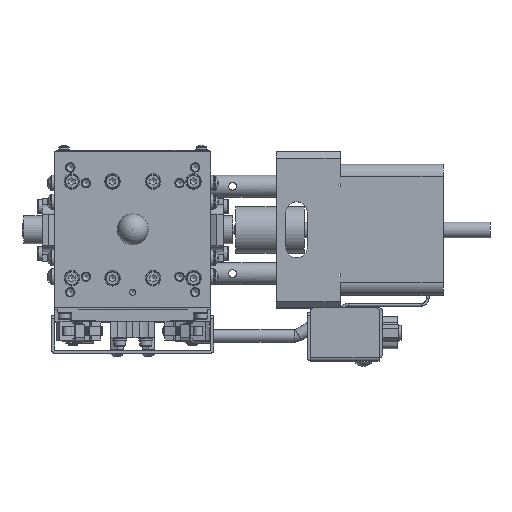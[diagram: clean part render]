
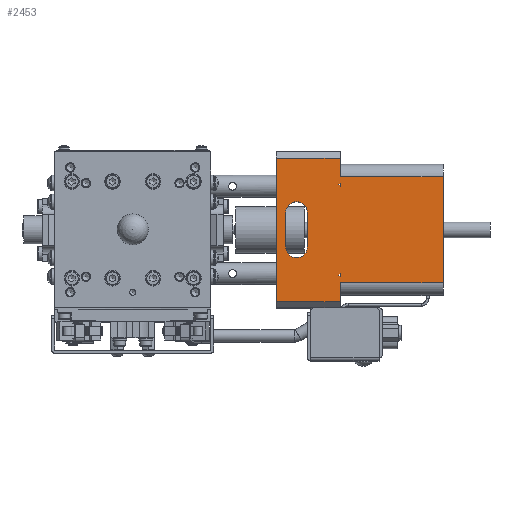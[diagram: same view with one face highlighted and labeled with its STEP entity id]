
A CAD part, top view. The second image highlights one B-rep face of the part: STEP entity #2453.
In plain terms, the highlighted planar face has unit normal (0, 0, 1).
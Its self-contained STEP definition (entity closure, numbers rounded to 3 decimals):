
#2453=ADVANCED_FACE('',(#26221,#26222,#26223,#26224),#26220,.T.);
#26220=PLANE('',#46400);
#26221=FACE_OUTER_BOUND('',#46401,.T.);
#26222=FACE_BOUND('',#46402,.T.);
#26223=FACE_BOUND('',#46403,.T.);
#26224=FACE_BOUND('',#46404,.T.);
#46397=CARTESIAN_POINT('',(104.85,27.6,29.));
#46398=DIRECTION('',(0.,0.,1.));
#46399=DIRECTION('',(-1.,0.,0.));
#46400=AXIS2_PLACEMENT_3D('',#46397,#46398,#46399);
#46401=EDGE_LOOP('',(#61643,#61644,#61645,#61646,#61647,#61648,#61649,#61650));
#46402=EDGE_LOOP('',(#61651,#61652,#61653));
#46403=EDGE_LOOP('',(#61654,#61655,#61656));
#46404=EDGE_LOOP('',(#61657,#61658,#61659,#61660));
#61643=ORIENTED_EDGE('',*,*,#70072,.F.);
#61644=ORIENTED_EDGE('',*,*,#70150,.T.);
#61645=ORIENTED_EDGE('',*,*,#70151,.T.);
#61646=ORIENTED_EDGE('',*,*,#70152,.T.);
#61647=ORIENTED_EDGE('',*,*,#70056,.F.);
#61648=ORIENTED_EDGE('',*,*,#70153,.T.);
#61649=ORIENTED_EDGE('',*,*,#70114,.F.);
#61650=ORIENTED_EDGE('',*,*,#70154,.T.);
#61651=ORIENTED_EDGE('',*,*,#70155,.F.);
#61652=ORIENTED_EDGE('',*,*,#70156,.T.);
#61653=ORIENTED_EDGE('',*,*,#70157,.F.);
#61654=ORIENTED_EDGE('',*,*,#70158,.F.);
#61655=ORIENTED_EDGE('',*,*,#70159,.T.);
#61656=ORIENTED_EDGE('',*,*,#70160,.F.);
#61657=ORIENTED_EDGE('',*,*,#70161,.T.);
#61658=ORIENTED_EDGE('',*,*,#70162,.T.);
#61659=ORIENTED_EDGE('',*,*,#70163,.F.);
#61660=ORIENTED_EDGE('',*,*,#70164,.T.);
#70056=EDGE_CURVE('',#111745,#111746,#111747,.T.);
#70072=EDGE_CURVE('',#111851,#111858,#111859,.T.);
#70114=EDGE_CURVE('',#112133,#112140,#112141,.T.);
#70150=EDGE_CURVE('',#111851,#112379,#112380,.T.);
#70151=EDGE_CURVE('',#112379,#112386,#112387,.T.);
#70152=EDGE_CURVE('',#112386,#111746,#112393,.T.);
#70153=EDGE_CURVE('',#111745,#112140,#112399,.T.);
#70154=EDGE_CURVE('',#112133,#111858,#112405,.T.);
#70155=EDGE_CURVE('',#112411,#112412,#112413,.T.);
#70156=EDGE_CURVE('',#112411,#112419,#112420,.T.);
#70157=EDGE_CURVE('',#112412,#112419,#112426,.T.);
#70158=EDGE_CURVE('',#112432,#112433,#112434,.T.);
#70159=EDGE_CURVE('',#112432,#112440,#112441,.T.);
#70160=EDGE_CURVE('',#112433,#112440,#112447,.T.);
#70161=EDGE_CURVE('',#112453,#112454,#112455,.T.);
#70162=EDGE_CURVE('',#112454,#112461,#112462,.T.);
#70163=EDGE_CURVE('',#112468,#112461,#112469,.T.);
#70164=EDGE_CURVE('',#112468,#112453,#112475,.T.);
#111745=VERTEX_POINT('',#144359);
#111746=VERTEX_POINT('',#144360);
#111747=LINE('',#144361,#144362);
#111851=VERTEX_POINT('',#144422);
#111858=VERTEX_POINT('',#144427);
#111859=LINE('',#144428,#144429);
#112133=VERTEX_POINT('',#144586);
#112140=VERTEX_POINT('',#144590);
#112141=LINE('',#144591,#144592);
#112379=VERTEX_POINT('',#144730);
#112380=LINE('',#144731,#144732);
#112386=VERTEX_POINT('',#144734);
#112387=LINE('',#144735,#144736);
#112393=LINE('',#144738,#144739);
#112399=LINE('',#144741,#144742);
#112405=LINE('',#144744,#144745);
#112411=VERTEX_POINT('',#144747);
#112412=VERTEX_POINT('',#144748);
#112413=LINE('',#144749,#144750);
#112419=VERTEX_POINT('',#144752);
#112420=LINE('',#144753,#144754);
#112426=LINE('',#144756,#144757);
#112432=VERTEX_POINT('',#144759);
#112433=VERTEX_POINT('',#144760);
#112434=LINE('',#144761,#144762);
#112440=VERTEX_POINT('',#144764);
#112441=LINE('',#144765,#144766);
#112447=LINE('',#144768,#144769);
#112453=VERTEX_POINT('',#144771);
#112454=VERTEX_POINT('',#144772);
#112455=LINE('',#144773,#144774);
#112461=VERTEX_POINT('',#144776);
#112462=CIRCLE('',#144780,3.5);
#112468=VERTEX_POINT('',#144781);
#112469=LINE('',#144782,#144783);
#112475=CIRCLE('',#144788,3.5);
#144359=CARTESIAN_POINT('',(66.5,23.,29.));
#144360=CARTESIAN_POINT('',(66.5,17.,29.));
#144361=CARTESIAN_POINT('',(66.5,23.,29.));
#144362=VECTOR('',#144363,6.);
#144363=DIRECTION('',(0.,-1.,0.));
#144422=CARTESIAN_POINT('',(66.5,-17.,29.));
#144427=CARTESIAN_POINT('',(66.5,-23.,29.));
#144428=CARTESIAN_POINT('',(66.5,-17.,29.));
#144429=VECTOR('',#144430,6.);
#144430=DIRECTION('',(0.,-1.,0.));
#144586=CARTESIAN_POINT('',(46.,-23.,29.));
#144590=CARTESIAN_POINT('',(46.,23.,29.));
#144591=CARTESIAN_POINT('',(46.,-23.,29.));
#144592=VECTOR('',#144593,46.);
#144593=DIRECTION('',(0.,1.,0.));
#144730=CARTESIAN_POINT('',(99.5,-17.,29.));
#144731=CARTESIAN_POINT('',(66.5,-17.,29.));
#144732=VECTOR('',#144733,33.);
#144733=DIRECTION('',(1.,0.,0.));
#144734=CARTESIAN_POINT('',(99.5,17.,29.));
#144735=CARTESIAN_POINT('',(99.5,-17.,29.));
#144736=VECTOR('',#144737,34.);
#144737=DIRECTION('',(0.,1.,0.));
#144738=CARTESIAN_POINT('',(99.5,17.,29.));
#144739=VECTOR('',#144740,33.);
#144740=DIRECTION('',(-1.,0.,0.));
#144741=CARTESIAN_POINT('',(66.5,23.,29.));
#144742=VECTOR('',#144743,20.5);
#144743=DIRECTION('',(-1.,0.,0.));
#144744=CARTESIAN_POINT('',(46.,-23.,29.));
#144745=VECTOR('',#144746,20.5);
#144746=DIRECTION('',(1.,0.,0.));
#144747=CARTESIAN_POINT('',(66.5,15.,29.));
#144748=CARTESIAN_POINT('',(66.,14.5,29.));
#144749=CARTESIAN_POINT('',(66.5,15.,29.));
#144750=VECTOR('',#144751,0.707);
#144751=DIRECTION('',(-0.707,-0.707,0.));
#144752=CARTESIAN_POINT('',(66.5,14.,29.));
#144753=CARTESIAN_POINT('',(66.5,15.,29.));
#144754=VECTOR('',#144755,1.);
#144755=DIRECTION('',(0.,-1.,0.));
#144756=CARTESIAN_POINT('',(66.,14.5,29.));
#144757=VECTOR('',#144758,0.707);
#144758=DIRECTION('',(0.707,-0.707,0.));
#144759=CARTESIAN_POINT('',(66.5,-14.,29.));
#144760=CARTESIAN_POINT('',(66.,-14.5,29.));
#144761=CARTESIAN_POINT('',(66.5,-14.,29.));
#144762=VECTOR('',#144763,0.707);
#144763=DIRECTION('',(-0.707,-0.707,0.));
#144764=CARTESIAN_POINT('',(66.5,-15.,29.));
#144765=CARTESIAN_POINT('',(66.5,-14.,29.));
#144766=VECTOR('',#144767,1.);
#144767=DIRECTION('',(0.,-1.,0.));
#144768=CARTESIAN_POINT('',(66.,-14.5,29.));
#144769=VECTOR('',#144770,0.707);
#144770=DIRECTION('',(0.707,-0.707,0.));
#144771=CARTESIAN_POINT('',(56.,5.5,29.));
#144772=CARTESIAN_POINT('',(56.,-5.5,29.));
#144773=CARTESIAN_POINT('',(56.,5.5,29.));
#144774=VECTOR('',#144775,11.);
#144775=DIRECTION('',(0.,-1.,0.));
#144776=CARTESIAN_POINT('',(49.,-5.5,29.));
#144777=CARTESIAN_POINT('',(52.5,-5.5,29.));
#144778=DIRECTION('',(0.,0.,-1.));
#144779=DIRECTION('',(1.,0.,0.));
#144780=AXIS2_PLACEMENT_3D('',#144777,#144778,#144779);
#144781=CARTESIAN_POINT('',(49.,5.5,29.));
#144782=CARTESIAN_POINT('',(49.,5.5,29.));
#144783=VECTOR('',#144784,11.);
#144784=DIRECTION('',(0.,-1.,0.));
#144785=CARTESIAN_POINT('',(52.5,5.5,29.));
#144786=DIRECTION('',(0.,0.,-1.));
#144787=DIRECTION('',(1.,0.,0.));
#144788=AXIS2_PLACEMENT_3D('',#144785,#144786,#144787);
